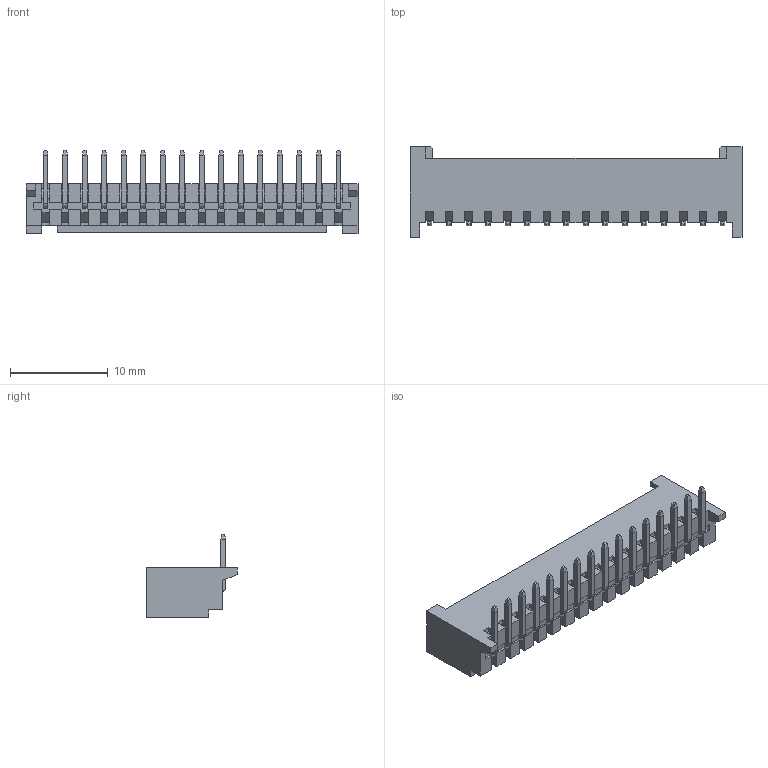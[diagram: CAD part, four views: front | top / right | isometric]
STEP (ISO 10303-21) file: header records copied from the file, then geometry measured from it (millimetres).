
FILE_DESCRIPTION(('CATIA V5 STEP Exchange'),'2;1');
FILE_NAME('F:\小黄\条形连接器\2.00系列\08--HY\NAW\HC-HY-16AWD-05（2.00 单排 定位弯针-HCTL）.stp','2025-09-25T02:44:57+00:00',('none'),('none'),'CATIA Version 5 Release 20 GA (IN-10)','CATIA V5 STEP AP203','none');
FILE_SCHEMA(('CONFIG_CONTROL_DESIGN'));
Length unit declared in the file: millimetre
Products named in the file (1): Part4
Bounding box: 34 x 9.3 x 8.5 mm (x, y, z)
Volume: 475.4 mm3; surface area: 1622.2 mm2
Topology: 17 solids, 17 shells, 573 faces, 1487 edges, 948 vertices
Faces by surface type: plane 557, cylinder 16
Entity records: 15181 total; most frequent: ORIENTED_EDGE 2974, CARTESIAN_POINT 2715, DIRECTION 1853, EDGE_CURVE 1487, VECTOR 1391, LINE 1391, VERTEX_POINT 948, EDGE_LOOP 605
